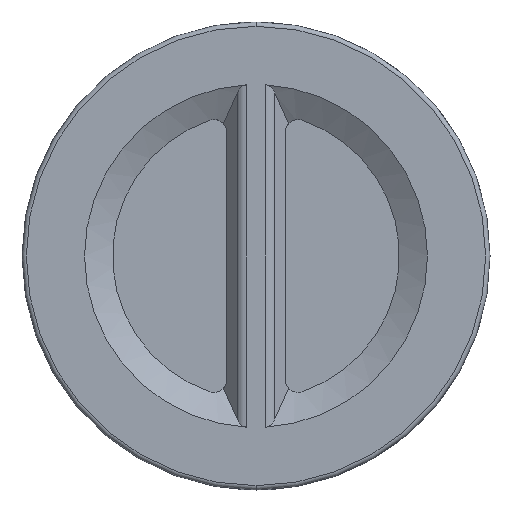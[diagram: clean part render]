
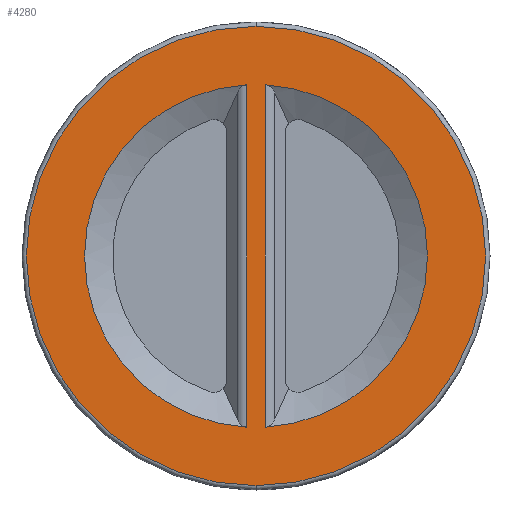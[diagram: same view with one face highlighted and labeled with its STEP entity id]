
A CAD part, front view. The second image highlights one B-rep face of the part: STEP entity #4280.
In plain terms, the highlighted planar face has unit normal (0, -1, 0).
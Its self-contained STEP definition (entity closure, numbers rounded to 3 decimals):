
#365 = CARTESIAN_POINT ( 'NONE',  ( 0., -76., 0. ) ) ;
#431 = AXIS2_PLACEMENT_3D ( 'NONE', #365, #7277, #7379 ) ;
#477 = EDGE_CURVE ( 'NONE', #6773, #6280, #7044, .T. ) ;
#521 = CARTESIAN_POINT ( 'NONE',  ( 4.26, -76., 79.376 ) ) ;
#751 = EDGE_CURVE ( 'NONE', #2151, #2954, #9212, .T. ) ;
#903 = EDGE_LOOP ( 'NONE', ( #9254, #6685 ) ) ;
#1163 = ORIENTED_EDGE ( 'NONE', *, *, #4489, .F. ) ;
#1474 = LINE ( 'NONE', #6114, #5324 ) ;
#1495 = EDGE_CURVE ( 'NONE', #9201, #9631, #1474, .T. ) ;
#1777 = DIRECTION ( 'NONE',  ( 0., -1., 0. ) ) ;
#1868 = CARTESIAN_POINT ( 'NONE',  ( 0., -76., 0. ) ) ;
#2151 = VERTEX_POINT ( 'NONE', #9733 ) ;
#2540 = DIRECTION ( 'NONE',  ( 0., 0., 1. ) ) ;
#2605 = AXIS2_PLACEMENT_3D ( 'NONE', #8010, #1777, #3471 ) ;
#2695 = ORIENTED_EDGE ( 'NONE', *, *, #3328, .F. ) ;
#2721 = FACE_OUTER_BOUND ( 'NONE', #903, .T. ) ;
#2890 = AXIS2_PLACEMENT_3D ( 'NONE', #1868, #3460, #2540 ) ;
#2929 = FACE_BOUND ( 'NONE', #6519, .T. ) ;
#2954 = VERTEX_POINT ( 'NONE', #8366 ) ;
#3328 = EDGE_CURVE ( 'NONE', #2954, #2151, #9303, .T. ) ;
#3460 = DIRECTION ( 'NONE',  ( 0., -1., 0. ) ) ;
#3471 = DIRECTION ( 'NONE',  ( 0., 0., 1. ) ) ;
#4280 = ADVANCED_FACE ( 'NONE', ( #2721, #2929, #6684 ), #6061, .F. ) ;
#4489 = EDGE_CURVE ( 'NONE', #9201, #9631, #8157, .T. ) ;
#4611 = EDGE_LOOP ( 'NONE', ( #1163, #7408 ) ) ;
#5324 = VECTOR ( 'NONE', #8649, 1000. ) ;
#6061 = PLANE ( 'NONE',  #8829 ) ;
#6114 = CARTESIAN_POINT ( 'NONE',  ( 4.26, -76., -500000. ) ) ;
#6181 = EDGE_CURVE ( 'NONE', #6280, #6773, #9978, .T. ) ;
#6280 = VERTEX_POINT ( 'NONE', #7337 ) ;
#6519 = EDGE_LOOP ( 'NONE', ( #2695, #7767 ) ) ;
#6684 = FACE_BOUND ( 'NONE', #4611, .T. ) ;
#6685 = ORIENTED_EDGE ( 'NONE', *, *, #477, .T. ) ;
#6773 = VERTEX_POINT ( 'NONE', #7750 ) ;
#6782 = CARTESIAN_POINT ( 'NONE',  ( -4.26, -76., -500000. ) ) ;
#6995 = AXIS2_PLACEMENT_3D ( 'NONE', #7916, #7865, #9471 ) ;
#7044 = CIRCLE ( 'NONE', #2605, 106.5 ) ;
#7277 = DIRECTION ( 'NONE',  ( 0., -1., 0. ) ) ;
#7337 = CARTESIAN_POINT ( 'NONE',  ( 0., -76., 106.5 ) ) ;
#7379 = DIRECTION ( 'NONE',  ( 0., 0., -1. ) ) ;
#7408 = ORIENTED_EDGE ( 'NONE', *, *, #1495, .T. ) ;
#7662 = CARTESIAN_POINT ( 'NONE',  ( 0., -76., 0. ) ) ;
#7750 = CARTESIAN_POINT ( 'NONE',  ( 0., -76., -106.5 ) ) ;
#7767 = ORIENTED_EDGE ( 'NONE', *, *, #751, .F. ) ;
#7865 = DIRECTION ( 'NONE',  ( 0., -1., 0. ) ) ;
#7916 = CARTESIAN_POINT ( 'NONE',  ( 0., -76., 0. ) ) ;
#8010 = CARTESIAN_POINT ( 'NONE',  ( 0., -76., 0. ) ) ;
#8157 = CIRCLE ( 'NONE', #431, 79.49 ) ;
#8341 = DIRECTION ( 'NONE',  ( 0., 1., 0. ) ) ;
#8366 = CARTESIAN_POINT ( 'NONE',  ( -4.26, -76., 79.376 ) ) ;
#8434 = DIRECTION ( 'NONE',  ( 0., 0., 1. ) ) ;
#8484 = DIRECTION ( 'NONE',  ( 0., 0., 1. ) ) ;
#8649 = DIRECTION ( 'NONE',  ( 0., 0., 1. ) ) ;
#8829 = AXIS2_PLACEMENT_3D ( 'NONE', #7662, #8341, #8434 ) ;
#8974 = VECTOR ( 'NONE', #8484, 1000. ) ;
#9180 = CARTESIAN_POINT ( 'NONE',  ( 4.26, -76., -79.376 ) ) ;
#9201 = VERTEX_POINT ( 'NONE', #9180 ) ;
#9212 = LINE ( 'NONE', #6782, #8974 ) ;
#9254 = ORIENTED_EDGE ( 'NONE', *, *, #6181, .T. ) ;
#9303 = CIRCLE ( 'NONE', #6995, 79.49 ) ;
#9471 = DIRECTION ( 'NONE',  ( 0., 0., -1. ) ) ;
#9631 = VERTEX_POINT ( 'NONE', #521 ) ;
#9733 = CARTESIAN_POINT ( 'NONE',  ( -4.26, -76., -79.376 ) ) ;
#9978 = CIRCLE ( 'NONE', #2890, 106.5 ) ;
